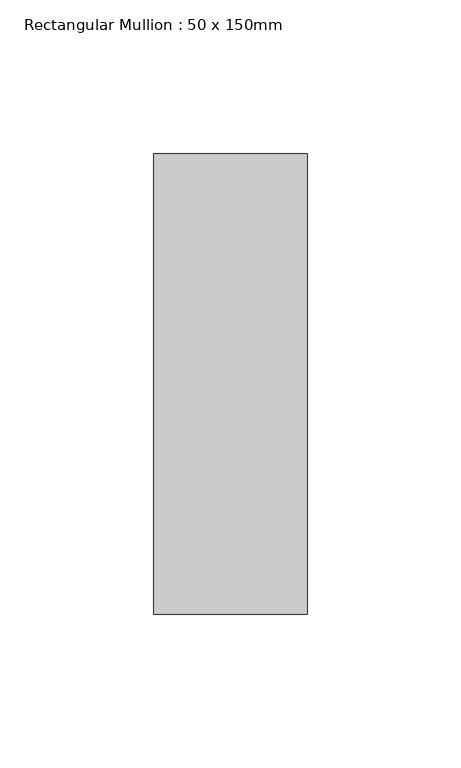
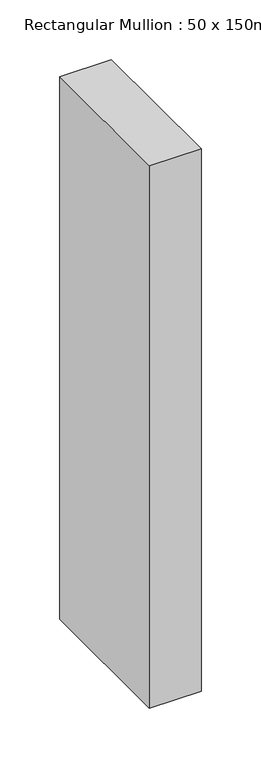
"""IFC4 building model written with IfcOpenShell, lengths in millimetres: member geometry, Rectangular Mullion : 50 x 150mm."""

from ifc_helpers import new_model, si_unit, frame, origin, place, context, project, spatial, polyline, outline, extrude, source, transform, mapped, element, save


def rectangular_mullion_50_x_150mm_39193753(model_context):
    return source(origin(), model_context, "Body", "SweptSolid", [
        extrude(outline(polyline([(0.0, 75.0), (0.0, -75.0), (-50.0, -75.0), (-50.0, 75.0), (0.0, 75.0)])), frame((0.0, 0.0, -553.9999999), z_axis=(0.0, 0.0, 1.0), x_axis=(1.0, 0.0, 0.0)), (0.0, 0.0, 1.0), 553.9999999),
    ])


if __name__ == "__main__":
    model = new_model("IFC4")
    model_context = context("Model", 3, world=origin())
    ifc_project = project(units=[si_unit("LENGTHUNIT", "METRE", prefix="MILLI")], contexts=[model_context])
    site = spatial("IfcSite", under=ifc_project)
    building = spatial("IfcBuilding", under=site)
    placement = place(None, origin())
    rectangular_mullion_50_x_150mm_shape = rectangular_mullion_50_x_150mm_39193753(model_context)
    element("IfcMember", 1, ObjectType="Rectangular Mullion : 50 x 150mm", at=placement, inside=building, context=model_context, shape_type="MappedRepresentation", body=[
        mapped(rectangular_mullion_50_x_150mm_shape, transform((0.0, 0.0, 0.0), x_axis=(1.0, 0.0, 0.0), y_axis=(0.0, 1.0, 0.0), z_axis=(0.0, 0.0, 1.0))),
    ])
    save(model, "model.ifc")
